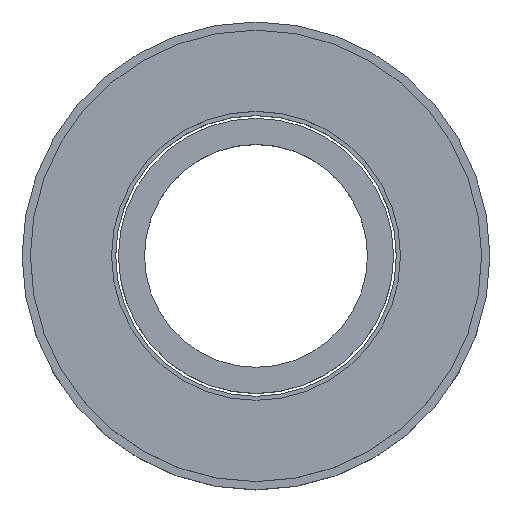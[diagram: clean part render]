
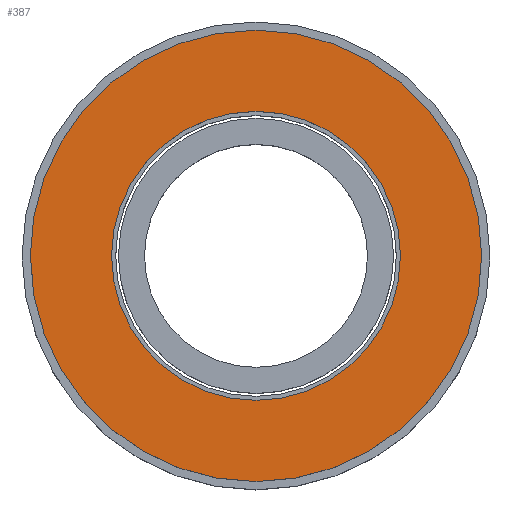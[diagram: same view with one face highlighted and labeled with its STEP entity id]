
A CAD part, top view. The second image highlights one B-rep face of the part: STEP entity #387.
In plain terms, the highlighted planar face has unit normal (0, 0, 1).
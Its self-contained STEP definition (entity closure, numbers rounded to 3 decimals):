
#76 = AXIS2_PLACEMENT_3D ( 'NONE', #326, #553, #550 ) ;
#107 = DIRECTION ( 'NONE',  ( 0., 0., 1. ) ) ;
#116 = EDGE_LOOP ( 'NONE', ( #241, #578 ) ) ;
#155 = EDGE_CURVE ( 'NONE', #969, #304, #705, .T. ) ;
#204 = CIRCLE ( 'NONE', #76, 41. ) ;
#217 = DIRECTION ( 'NONE',  ( 1., 0., 0. ) ) ;
#224 = FACE_BOUND ( 'NONE', #357, .T. ) ;
#241 = ORIENTED_EDGE ( 'NONE', *, *, #469, .T. ) ;
#304 = VERTEX_POINT ( 'NONE', #837 ) ;
#323 = AXIS2_PLACEMENT_3D ( 'NONE', #603, #913, #451 ) ;
#326 = CARTESIAN_POINT ( 'NONE',  ( 0., 0., 22.5 ) ) ;
#350 = ORIENTED_EDGE ( 'NONE', *, *, #155, .F. ) ;
#357 = EDGE_LOOP ( 'NONE', ( #534, #350 ) ) ;
#359 = CARTESIAN_POINT ( 'NONE',  ( 0., 0., 22.5 ) ) ;
#387 = ADVANCED_FACE ( 'NONE', ( #456, #224 ), #615, .T. ) ;
#404 = AXIS2_PLACEMENT_3D ( 'NONE', #949, #727, #217 ) ;
#448 = CARTESIAN_POINT ( 'NONE',  ( 41., 0., 22.5 ) ) ;
#451 = DIRECTION ( 'NONE',  ( 1., 0., 0. ) ) ;
#456 = FACE_OUTER_BOUND ( 'NONE', #116, .T. ) ;
#459 = CARTESIAN_POINT ( 'NONE',  ( -41., 0., 22.5 ) ) ;
#469 = EDGE_CURVE ( 'NONE', #899, #855, #204, .T. ) ;
#503 = AXIS2_PLACEMENT_3D ( 'NONE', #776, #107, #782 ) ;
#534 = ORIENTED_EDGE ( 'NONE', *, *, #544, .F. ) ;
#544 = EDGE_CURVE ( 'NONE', #304, #969, #629, .T. ) ;
#550 = DIRECTION ( 'NONE',  ( 1., 0., 0. ) ) ;
#553 = DIRECTION ( 'NONE',  ( 0., 0., 1. ) ) ;
#567 = AXIS2_PLACEMENT_3D ( 'NONE', #359, #576, #585 ) ;
#576 = DIRECTION ( 'NONE',  ( 0., 0., 1. ) ) ;
#578 = ORIENTED_EDGE ( 'NONE', *, *, #673, .T. ) ;
#585 = DIRECTION ( 'NONE',  ( 1., 0., 0. ) ) ;
#595 = CARTESIAN_POINT ( 'NONE',  ( 26.25, 0., 22.5 ) ) ;
#603 = CARTESIAN_POINT ( 'NONE',  ( 0., 0., 22.5 ) ) ;
#615 = PLANE ( 'NONE',  #323 ) ;
#629 = CIRCLE ( 'NONE', #503, 26.25 ) ;
#673 = EDGE_CURVE ( 'NONE', #855, #899, #695, .T. ) ;
#695 = CIRCLE ( 'NONE', #567, 41. ) ;
#705 = CIRCLE ( 'NONE', #404, 26.25 ) ;
#727 = DIRECTION ( 'NONE',  ( 0., 0., 1. ) ) ;
#776 = CARTESIAN_POINT ( 'NONE',  ( 0., 0., 22.5 ) ) ;
#782 = DIRECTION ( 'NONE',  ( 1., 0., 0. ) ) ;
#837 = CARTESIAN_POINT ( 'NONE',  ( -26.25, 0., 22.5 ) ) ;
#855 = VERTEX_POINT ( 'NONE', #448 ) ;
#899 = VERTEX_POINT ( 'NONE', #459 ) ;
#913 = DIRECTION ( 'NONE',  ( 0., 0., 1. ) ) ;
#949 = CARTESIAN_POINT ( 'NONE',  ( 0., 0., 22.5 ) ) ;
#969 = VERTEX_POINT ( 'NONE', #595 ) ;
